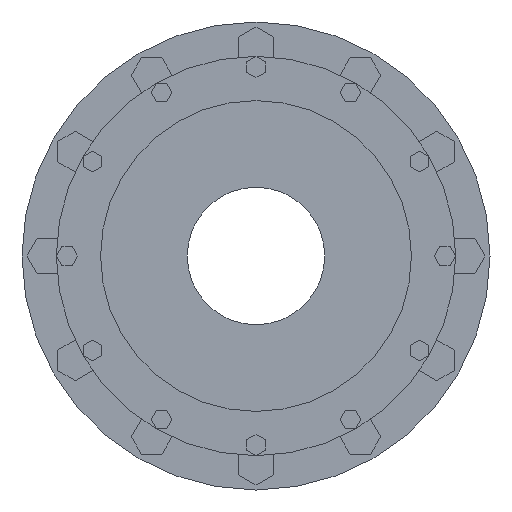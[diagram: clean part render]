
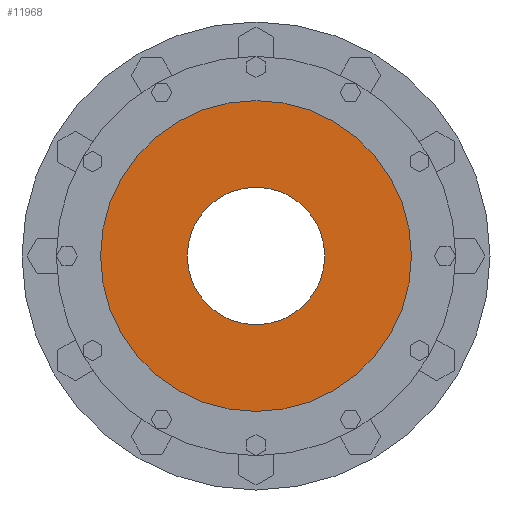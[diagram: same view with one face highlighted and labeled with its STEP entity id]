
A CAD part, left-side view. The second image highlights one B-rep face of the part: STEP entity #11968.
In plain terms, the highlighted planar face has unit normal (-1, 0, 0).
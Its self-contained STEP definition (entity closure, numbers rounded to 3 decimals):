
#11666=CARTESIAN_POINT('',(-288.,0.,0.));
#11667=DIRECTION('',(1.,0.,0.));
#11668=DIRECTION('',(0.,1.,0.));
#11669=AXIS2_PLACEMENT_3D('',#11666,#11667,#11668);
#11745=CARTESIAN_POINT('',(-288.,0.,0.));
#11746=DIRECTION('',(-1.,0.,0.));
#11747=DIRECTION('',(0.,1.,0.));
#11748=AXIS2_PLACEMENT_3D('',#11745,#11746,#11747);
#11750=CARTESIAN_POINT('',(-288.,0.,0.));
#11751=DIRECTION('',(1.,0.,0.));
#11752=DIRECTION('',(0.,1.,0.));
#11753=AXIS2_PLACEMENT_3D('',#11750,#11751,#11752);
#11764=CARTESIAN_POINT('',(-288.,0.,0.));
#11765=DIRECTION('',(-1.,0.,0.));
#11766=DIRECTION('',(0.,1.,0.));
#11767=AXIS2_PLACEMENT_3D('',#11764,#11765,#11766);
#11773=CARTESIAN_POINT('',(-288.,80.,0.));
#11774=CARTESIAN_POINT('',(-288.,-80.,0.));
#11775=VERTEX_POINT('',#11773);
#11776=VERTEX_POINT('',#11774);
#11777=CARTESIAN_POINT('',(-288.,181.,0.));
#11778=CARTESIAN_POINT('',(-288.,-181.,0.));
#11779=VERTEX_POINT('',#11777);
#11780=VERTEX_POINT('',#11778);
#11954=CARTESIAN_POINT('',(-288.,0.,0.));
#11955=DIRECTION('',(1.,0.,0.));
#11956=DIRECTION('',(0.,-1.,0.));
#11957=AXIS2_PLACEMENT_3D('',#11954,#11955,#11956);
#11958=PLANE('',#11957);
#11959=ORIENTED_EDGE('',*,*,#11936,.F.);
#11960=ORIENTED_EDGE('',*,*,#11949,.T.);
#11961=EDGE_LOOP('',(#11959,#11960));
#11962=FACE_OUTER_BOUND('',#11961,.F.);
#11963=ORIENTED_EDGE('',*,*,#11814,.F.);
#11965=ORIENTED_EDGE('',*,*,#11964,.T.);
#11966=EDGE_LOOP('',(#11963,#11965));
#11967=FACE_BOUND('',#11966,.F.);
#11968=ADVANCED_FACE('',(#11962,#11967),#11958,.F.);
#11670=CIRCLE('',#11669,80.);
#11749=CIRCLE('',#11748,181.);
#11754=CIRCLE('',#11753,181.);
#11768=CIRCLE('',#11767,80.);
#11814=EDGE_CURVE('',#11775,#11776,#11670,.T.);
#11936=EDGE_CURVE('',#11779,#11780,#11749,.T.);
#11949=EDGE_CURVE('',#11779,#11780,#11754,.T.);
#11964=EDGE_CURVE('',#11775,#11776,#11768,.T.);
